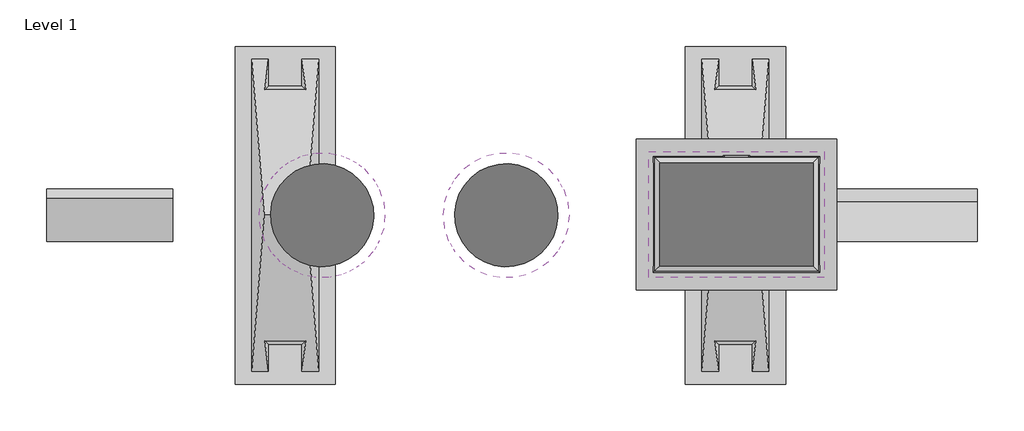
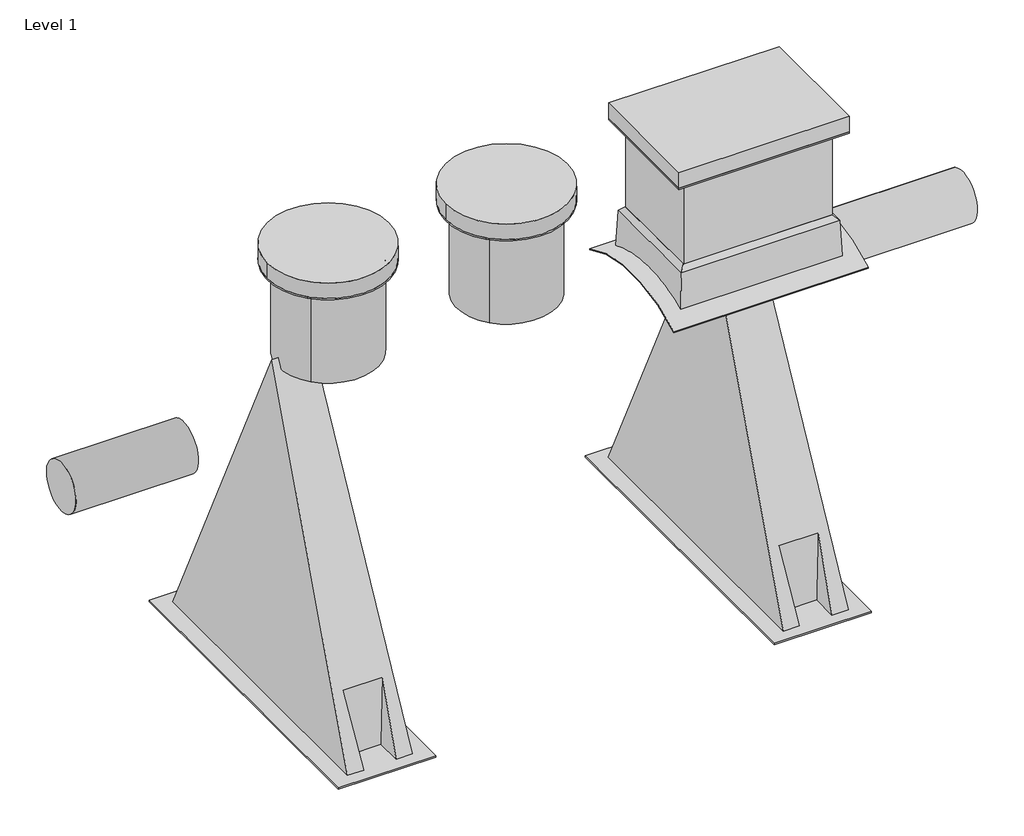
# One storey, incomplete: 11 proxies.
"""IFC4 building model written with IfcOpenShell, lengths in millimetres."""

import ifcopenshell
import ifcopenshell.guid

model = None  # the IFC model being written
_history = None  # IfcOwnerHistory: only IFC2X3 demands one
_inside = {}  # id of a spatial element -> (the spatial element, [elements in it])
_under = {}  # id of a project, library or spatial element -> (it, [spatial elements below it])
_declared = {}  # id of a project -> (the project, [libraries it declares])
_typed = {}  # id of a type object -> (the type object, [elements of that type])
_made_of = {}  # id of a material, layer set ... -> (it, [elements and type objects made of it])


def new_model(schema):
    """Start an empty IFC model of exactly this schema.

    Asked for "IFC4X3", IfcOpenShell would pick the latest addendum, in which some entities
    have other attributes; the version numbers below select the first issue.
    IFC2X3 requires an IfcOwnerHistory on every rooted entity: one is made here for all.
    """
    global model, _history
    if schema == "IFC4X3":
        model = ifcopenshell.file(schema_version=(4, 3, 0, 0))
    else:
        model = ifcopenshell.file(schema=schema)
    _inside.clear()
    _under.clear()
    _declared.clear()
    _typed.clear()
    _made_of.clear()
    _history = None
    if model.schema == "IFC2X3":
        org = make("IfcOrganization", Name="unknown")
        user = make(
            "IfcPersonAndOrganization",
            ThePerson=make("IfcPerson", FamilyName="unknown"),
            TheOrganization=org,
        )
        app = make(
            "IfcApplication",
            ApplicationDeveloper=org,
            Version="unknown",
            ApplicationFullName="unknown",
            ApplicationIdentifier="unknown",
        )
        _history = make(
            "IfcOwnerHistory",
            OwningUser=user,
            OwningApplication=app,
            ChangeAction="ADDED",
            CreationDate=0,
        )
    return model


def make(cls, **values):
    """One entity of the class cls with the attributes given. An attribute that is None is left unset."""
    return model.create_entity(
        cls, **{name: value for name, value in values.items() if value is not None}
    )


def rooted(cls, **values):
    """An entity with a GlobalId (a new one), such as an element, a storey or a relation."""
    return make(cls, GlobalId=ifcopenshell.guid.new(), OwnerHistory=_history, **values)


def si_unit(unit_type, name, prefix=None):
    """IfcSIUnit, for example si_unit("LENGTHUNIT", "METRE", prefix="MILLI")."""
    return make("IfcSIUnit", UnitType=unit_type, Prefix=prefix, Name=name)


def assignment(units):
    """IfcUnitAssignment: the units of a project."""
    return None if units is None else make("IfcUnitAssignment", Units=units)


def point(xyz):
    """IfcCartesianPoint."""
    return None if xyz is None else make("IfcCartesianPoint", Coordinates=xyz)


def direction(xyz):
    """IfcDirection."""
    return None if xyz is None else make("IfcDirection", DirectionRatios=xyz)


def frame(location, z_axis=None, x_axis=None):
    """IfcAxis2Placement3D, a coordinate frame: its origin and axes. An axis left out is left unset."""
    return make(
        "IfcAxis2Placement3D",
        Location=point(location),
        Axis=direction(z_axis),
        RefDirection=direction(x_axis),
    )


def frame_2d(location, x_axis=None):
    """IfcAxis2Placement2D, a coordinate frame in the plane: its origin and x axis."""
    return make(
        "IfcAxis2Placement2D", Location=point(location), RefDirection=direction(x_axis)
    )


def origin():
    """The frame at (0, 0, 0) with its axes left unset."""
    return frame((0.0, 0.0, 0.0))


def origin_2d():
    """The frame at (0, 0) in the plane with its x axis left unset."""
    return frame_2d((0.0, 0.0))


def place(relative_to, where):
    """IfcLocalPlacement: puts the frame where relative to a parent placement (None: the world)."""
    return make(
        "IfcLocalPlacement", PlacementRelTo=relative_to, RelativePlacement=where
    )


def context(
    kind, dimensions, precision=None, world=None, true_north=None, identifier=None
):
    """IfcGeometricRepresentationContext, for example the 3D "Model" context."""
    return make(
        "IfcGeometricRepresentationContext",
        ContextIdentifier=identifier,
        ContextType=kind,
        CoordinateSpaceDimension=dimensions,
        Precision=precision,
        WorldCoordinateSystem=world,
        TrueNorth=true_north,
    )


def project(units=None, contexts=None):
    """IfcProject with its units and contexts."""
    return rooted(
        "IfcProject",
        Name="project",
        RepresentationContexts=contexts,
        UnitsInContext=assignment(units),
    )


def spatial(cls, under=None, at=None, **own):
    """A site, building, storey or space (cls), placed at a placement, below another one or the project."""
    s = rooted(cls, ObjectPlacement=at, **own)
    if under is not None:
        _under.setdefault(under.id(), (under, []))[1].append(s)
    return s


def polyline(points):
    """IfcPolyline through the points."""
    return make("IfcPolyline", Points=[point(p) for p in points])


def circle_curve(where, radius):
    """IfcCircle in the frame where."""
    return make("IfcCircle", Position=where, Radius=radius)


def ellipse_curve(where, semi_axis1, semi_axis2):
    """IfcEllipse in the frame where."""
    return make(
        "IfcEllipse", Position=where, SemiAxis1=semi_axis1, SemiAxis2=semi_axis2
    )


def trimmed(basis, trim1, trim2, sense, master):
    """IfcTrimmedCurve: the piece of a basis curve between two trims."""
    return make(
        "IfcTrimmedCurve",
        BasisCurve=basis,
        Trim1=trim1,
        Trim2=trim2,
        SenseAgreement=sense,
        MasterRepresentation=master,
    )


def segment(curve, same_sense, transition):
    """IfcCompositeCurveSegment."""
    return make(
        "IfcCompositeCurveSegment",
        Transition=transition,
        SameSense=same_sense,
        ParentCurve=curve,
    )


def composite_curve(segments, self_intersect=None):
    """IfcCompositeCurve: segments joined end to end."""
    return make("IfcCompositeCurve", Segments=segments, SelfIntersect=self_intersect)


def outline(outer, holes=None, kind="AREA"):
    """IfcArbitraryClosedProfileDef: a profile drawn as a closed curve; with holes, ...WithVoids."""
    if holes is None:
        return make("IfcArbitraryClosedProfileDef", ProfileType=kind, OuterCurve=outer)
    return make(
        "IfcArbitraryProfileDefWithVoids",
        ProfileType=kind,
        OuterCurve=outer,
        InnerCurves=holes,
    )


def extrude(swept, where, along, depth):
    """IfcExtrudedAreaSolid: the profile swept, set in the frame where, extruded along a direction by depth."""
    return make(
        "IfcExtrudedAreaSolid",
        SweptArea=swept,
        Position=where,
        ExtrudedDirection=direction(along),
        Depth=depth,
    )


def faces_of(points, faces, orient=None, outer=None):
    """IfcFace entities. A face is a list of loops; a loop is a list of indices into points, from 0.

    orient and outer hold one flag for each loop. By default every Orientation is true, the
    first loop of a face is its IfcFaceOuterBound and the others are IfcFaceBound.
    """
    made = []
    for i, loops in enumerate(faces):
        bounds = []
        for j, loop in enumerate(loops):
            is_outer = j == 0 if outer is None else outer[i][j]
            bounds.append(
                make(
                    "IfcFaceOuterBound" if is_outer else "IfcFaceBound",
                    Bound=make("IfcPolyLoop", Polygon=[points[k] for k in loop]),
                    Orientation=True if orient is None else orient[i][j],
                )
            )
        made.append(make("IfcFace", Bounds=bounds))
    return made


def faceted_brep(points, faces, orient=None, outer=None, voids=None):
    """IfcFacetedBrep: a solid bounded by flat faces; with voids (closed shells), ...WithVoids."""
    shared = [point(p) for p in points]
    hull = make("IfcClosedShell", CfsFaces=faces_of(shared, faces, orient, outer))
    if voids is None:
        return make("IfcFacetedBrep", Outer=hull)
    return make(
        "IfcFacetedBrepWithVoids",
        Outer=hull,
        Voids=[
            make(cls, CfsFaces=faces_of(shared, fs, o, b)) for cls, fs, o, b in voids
        ],
    )


def shape(context_of_items, identifier, shape_type, items):
    """IfcShapeRepresentation: the items that make up one representation, for example the "Body"."""
    return make(
        "IfcShapeRepresentation",
        ContextOfItems=context_of_items,
        RepresentationIdentifier=identifier,
        RepresentationType=shape_type,
        Items=items,
    )


def source(mapping_origin, context_of_items, identifier, shape_type, items):
    """IfcRepresentationMap: a shape defined once, which mapped items show again and again."""
    return make(
        "IfcRepresentationMap",
        MappingOrigin=mapping_origin,
        MappedRepresentation=shape(context_of_items, identifier, shape_type, items),
    )


def transform(
    local_origin,
    x_axis=None,
    y_axis=None,
    z_axis=None,
    scale=None,
    scale2=None,
    scale3=None,
    uniform=True,
):
    """IfcCartesianTransformationOperator3D, or its non-uniform kind. x_axis, y_axis, z_axis: its Axis1, 2, 3."""
    if uniform:
        return make(
            "IfcCartesianTransformationOperator3D",
            Axis1=direction(x_axis),
            Axis2=direction(y_axis),
            LocalOrigin=point(local_origin),
            Scale=scale,
            Axis3=direction(z_axis),
        )
    return make(
        "IfcCartesianTransformationOperator3DnonUniform",
        Axis1=direction(x_axis),
        Axis2=direction(y_axis),
        LocalOrigin=point(local_origin),
        Scale=scale,
        Axis3=direction(z_axis),
        Scale2=scale2,
        Scale3=scale3,
    )


def mapped(mapping_source, mapping_target):
    """IfcMappedItem: shows the shape of a source again, moved by a transform."""
    return make(
        "IfcMappedItem", MappingSource=mapping_source, MappingTarget=mapping_target
    )


def made_of(thing, what):
    """Note that an element or type object is made of a material, layer set ...; save() writes the relation."""
    if what is not None:
        _made_of.setdefault(what.id(), (what, []))[1].append(thing)
    return thing


def element(
    cls,
    number,
    at=None,
    inside=None,
    cuts=None,
    type_object=None,
    material=None,
    context=None,
    identifier="Body",
    shape_type=None,
    held_by="IfcProductDefinitionShape",
    body=None,
    shapes=None,
    **own,
):
    """One element of the class cls, such as IfcWall. Its Tag is "e" and its number.

    at: its placement. inside: the storey or other place that contains it. cuts: it is an
    opening in that element (IfcRelVoidsElement). A single representation is given by context,
    identifier, shape_type and body (its items); several are given by shapes. held_by: the class
    of the entity that holds the representations. save() writes the other relations.
    """
    e = rooted(cls, Tag="e%d" % number, ObjectPlacement=at, **own)
    if body is not None:
        shapes = [shape(context, identifier, shape_type, body)]
    if shapes is not None:
        e.Representation = make(held_by, Representations=shapes)
    if inside is not None:
        _inside.setdefault(inside.id(), (inside, []))[1].append(e)
    if cuts is not None:
        rooted(
            "IfcRelVoidsElement", RelatingBuildingElement=cuts, RelatedOpeningElement=e
        )
    if type_object is not None:
        _typed.setdefault(type_object.id(), (type_object, []))[1].append(e)
    return made_of(e, material)


def aggregate(whole, parts):
    """IfcRelAggregates: a whole, such as a stair, and the parts it consists of."""
    return rooted("IfcRelAggregates", RelatingObject=whole, RelatedObjects=parts)


def save(model, path):
    """Write the relations noted so far, then the file.

    IfcRelAggregates (storeys below a building ...), IfcRelContainedInSpatialStructure (elements
    in a storey), IfcRelDefinesByType, IfcRelAssociatesMaterial and IfcRelDeclares: one each for
    every whole, place, type object, material and project.
    """
    for whole, parts in _under.values():
        aggregate(whole, parts)
    for where, things in _inside.values():
        rooted(
            "IfcRelContainedInSpatialStructure",
            RelatedElements=things,
            RelatingStructure=where,
        )
    for kind, things in _typed.values():
        rooted("IfcRelDefinesByType", RelatedObjects=things, RelatingType=kind)
    for what, things in _made_of.values():
        rooted("IfcRelAssociatesMaterial", RelatedObjects=things, RelatingMaterial=what)
    for by, libraries in _declared.values():
        rooted("IfcRelDeclares", RelatingContext=by, RelatedDefinitions=libraries)
    model.write(path)


def plane_surface(at):
    """IfcPlane: the flat surface through the origin of the frame at, square to its z axis."""
    return make("IfcPlane", Position=at)


def cylinder_surface(at, radius):
    """IfcCylindricalSurface: all points at the distance radius from the z axis of the frame at."""
    return make("IfcCylindricalSurface", Position=at, Radius=radius)


def revolved_surface(curve, axis_point, axis_direction):
    """IfcSurfaceOfRevolution: the curve turned about the line through axis_point along axis_direction."""
    return make(
        "IfcSurfaceOfRevolution",
        SweptCurve=make("IfcArbitraryOpenProfileDef", ProfileType="CURVE", Curve=curve),
        AxisPosition=make("IfcAxis1Placement", Location=point(axis_point), Axis=direction(axis_direction)),
    )


def advanced_brep(points, edges, surfaces, faces):
    """IfcAdvancedBrep: a solid bounded by faces that lie on surfaces and meet in shared edges.

    An edge is (start, end): straight between two places in points (the first is 0);
    or (start, end, curve); or (start, end, curve, False) where it runs against its curve.
    A face is (place in surfaces, loops), or (place, loops, False) where it looks against
    its surface's normal. A loop lists edges by number (the first is 1), with a minus sign
    where the edge is run from its end to its start. The first loop is the outer one.
    """
    corners = [point(p) for p in points]
    vertices = [make("IfcVertexPoint", VertexGeometry=c) for c in corners]
    made = []
    for start, end, *more in edges:
        made.append(
            make(
                "IfcEdgeCurve",
                EdgeStart=vertices[start],
                EdgeEnd=vertices[end],
                EdgeGeometry=more[0] if more else make("IfcPolyline", Points=[corners[start], corners[end]]),
                SameSense=more[1] if len(more) > 1 else True,
            )
        )
    hull = []
    for where, loops, *sense in faces:
        bounds = []
        for j, loop in enumerate(loops):
            ring = [make("IfcOrientedEdge", EdgeElement=made[abs(k) - 1], Orientation=k > 0) for k in loop]
            bounds.append(
                make(
                    "IfcFaceOuterBound" if j == 0 else "IfcFaceBound",
                    Bound=make("IfcEdgeLoop", EdgeList=ring),
                    Orientation=True,
                )
            )
        hull.append(make("IfcAdvancedFace", Bounds=bounds, FaceSurface=surfaces[where], SameSense=sense[0] if sense else True))
    return make("IfcAdvancedBrep", Outer=make("IfcClosedShell", CfsFaces=hull))


def generic_models_de51d8ae(model_context):
    return source(origin(), model_context, "Body", "AdvancedBrep", [
        advanced_brep(
        [(-375.0, 590.0, 0.0), (-375.0, 600.0, 0.0), (375.0, 600.0, 0.0), (375.0, 590.0, 0.0), (-308.0, 0.0, 0.0), (-308.0, 590.0, 0.0), (308.0, 590.0, 0.0), (308.0, 0.0, 0.0)],
        [
            (0, 1),
            (1, 2, circle_curve(frame((0.0, 600.0, 0.0), z_axis=(0.0, -1.0, 0.0), x_axis=(-1.0, 0.0, 0.0)), 375.0)),
            (2, 3),
            (3, 0, circle_curve(frame((0.0, 590.0, 0.0), z_axis=(0.0, 1.0, 0.0), x_axis=(-1.0, 0.0, 0.0)), 375.0)),
            (4, 5),
            (5, 6, circle_curve(frame((0.0, 590.0, 0.0), z_axis=(0.0, -1.0, 0.0), x_axis=(-1.0, 0.0, 0.0)), 308.0)),
            (6, 7),
            (7, 4, circle_curve(frame((0.0, 0.0, 0.0), z_axis=(0.0, 1.0, 0.0), x_axis=(-1.0, 0.0, 0.0)), 308.0)),
            (1, 2, circle_curve(frame((0.0, 600.0, 0.0), z_axis=(0.0, 1.0, 0.0), x_axis=(-1.0, 0.0, 0.0)), 375.0)),
            (7, 4, circle_curve(frame((0.0, 0.0, 0.0), z_axis=(0.0, -1.0, 0.0), x_axis=(-1.0, 0.0, 0.0)), 308.0)),
            (6, 5, circle_curve(frame((0.0, 590.0, 0.0), z_axis=(0.0, -1.0, 0.0), x_axis=(-1.0, 0.0, 0.0)), 308.0)),
            (3, 0, circle_curve(frame((0.0, 590.0, 0.0), z_axis=(0.0, -1.0, 0.0), x_axis=(-1.0, 0.0, 0.0)), 375.0)),
        ],
        [
            cylinder_surface(frame((0.0, 595.0, 0.0), z_axis=(0.0, 1.0, 0.0), x_axis=(-1.0, 0.0, 0.0)), 375.0),
            cylinder_surface(frame((0.0, 295.0, 0.0), z_axis=(0.0, 1.0, 0.0), x_axis=(-1.0, 0.0, 0.0)), 308.0),
            plane_surface(frame((-300.0, 600.0, 0.0), z_axis=(0.0, 1.0, 0.0), x_axis=(0.0, 0.0, 1.0))),
            plane_surface(frame((-308.0, 0.0, 0.0), z_axis=(0.0, -1.0, 0.0), x_axis=(0.0, 0.0, -1.0))),
            plane_surface(frame((-375.0, 590.0, 0.0), z_axis=(0.0, -1.0, 0.0), x_axis=(0.0, 0.0, -1.0))),
        ],
        [
            (0, [[1, 2, 3, 4]]),
            (1, [[5, 6, 7, 8]]),
            (2, [[9, -2]]),
            (3, [[10, -8]]),
            (1, [[-5, -10, -7, 11]]),
            (4, [[12, -4], [-11, -6]]),
            (0, [[-1, -12, -3, -9]]),
        ],
    ),
    ])


def generic_models_efd85da4(model_context):
    return source(origin(), model_context, "Body", "SweptSolid", [
        extrude(outline(polyline([(-375.0, 0.0), (-375.0, 100.0), (375.0, 100.0), (375.0, 0.0), (-375.0, 0.0)])), frame((0.0, 0.0, -525.0), z_axis=(0.0, 0.0, 1.0), x_axis=(1.0, 0.0, 0.0)), (0.0, 0.0, 1.0), 1050.0),
    ])


def generic_models_57929f39(model_context):
    return source(origin(), model_context, "Body", "Brep", [
        faceted_brep([(934.0, 0.0, 0.0), (0.0, 2118.0, 73.9621898), (0.0, 2118.0, 326.0378102), (934.0, 0.0, 400.0), (934.0, 0.0, 300.0), (750.3777149, 416.394004, 321.8222851), (750.3777149, 416.394004, 78.1777149), (934.0, 0.0, 100.0), (-934.0, 0.0, 400.0), (772.2, 0.0, 300.0), (772.2, 0.0, 100.0), (-934.0, 0.0, 0.0), (-934.0, 0.0, 100.0), (-750.3777149, 416.394004, 78.1777149), (-750.3777149, 416.394004, 321.8222851), (-934.0, 0.0, 300.0), (-772.2, 0.0, 100.0), (-772.2, 0.0, 300.0), (-1009.0, 0.0, 500.0), (1009.0, 0.0, 500.0), (1009.0, 0.0, -100.0), (-1009.0, 0.0, -100.0), (-1009.0, -10.0, 500.0), (-1009.0, -10.0, -100.0), (1009.0, -10.0, -100.0), (1009.0, -10.0, 500.0)], [[[0, 1, 2, 3, 4, 5, 6, 7]], [[3, 2, 8]], [[4, 9, 5]], [[9, 10, 6, 5]], [[10, 7, 6]], [[1, 11, 12, 13, 14, 15, 8, 2]], [[13, 16, 17, 14]], [[18, 19, 20, 21], [3, 8, 15, 17, 16, 12, 11, 0, 7, 10, 9, 4]], [[1, 0, 11]], [[14, 17, 15]], [[22, 23, 24, 25]], [[12, 16, 13]], [[19, 18, 22, 25]], [[20, 19, 25, 24]], [[21, 20, 24, 23]], [[18, 21, 23, 22]]]),
    ])


def generic_models_2a316d6d(model_context):
    return source(origin(), model_context, "Body", "SweptSolid", [
        extrude(outline(composite_curve([segment(trimmed(circle_curve(origin_2d(), 375.0), [point((0.0, 375.0))], [point((0.0, -375.0))], False, "CARTESIAN"), True, "CONTINUOUS"), segment(trimmed(circle_curve(origin_2d(), 375.0), [point((0.0, -375.0))], [point((0.0, 375.0))], False, "CARTESIAN"), True, "CONTINUOUS")], self_intersect=False)), frame((0.0, 0.0, 0.0), z_axis=(0.0, 1.0, 0.0), x_axis=(0.0, 0.0, 1.0)), (0.0, 0.0, 1.0), 100.0),
    ])


def generic_models_d9ee4f9d(model_context):
    return source(origin(), model_context, "Body", "Brep", [
        faceted_brep([(308.0, -600.0, -458.0), (308.0, -600.0, 458.0), (-308.0, -600.0, 458.0), (-308.0, -600.0, -458.0), (375.0, 0.0, -525.0), (-375.0, 0.0, -525.0), (-375.0, 0.0, 525.0), (375.0, 0.0, 525.0), (-308.0, -10.0, -458.0), (308.0, -10.0, -458.0), (-375.0, -10.0, -525.0), (375.0, -10.0, -525.0), (375.0, -10.0, 525.0), (-375.0, -10.0, 525.0), (-308.0, -10.0, 458.0), (308.0, -10.0, 458.0)], [[[0, 1, 2, 3]], [[4, 5, 6, 7]], [[0, 3, 8, 9]], [[10, 11, 12, 13], [9, 8, 14, 15]], [[3, 2, 14, 8]], [[2, 1, 15, 14]], [[0, 9, 15, 1]], [[5, 4, 11, 10]], [[6, 5, 10, 13]], [[7, 6, 13, 12]], [[4, 7, 12, 11]]]),
    ])


def generic_models_cbd79aaf(model_context):
    return source(origin(), model_context, "Body", "AdvancedBrep", [
        advanced_brep(
        [(296.4984069, 250.0, -446.4984069), (-296.4984069, 250.0, -446.4984069), (-296.4984069, 250.0, 446.4984069), (296.4984069, 250.0, 446.4984069), (298.0, 207.0, -448.0), (-298.0, 207.0, -448.0), (-298.0, 207.0, 448.0), (298.0, 207.0, 448.0), (-450.0, -99.8385062, 600.0), (450.0, -99.8385062, 600.0), (450.0, -99.8385062, -600.0), (-450.0, -99.8385062, -600.0), (-347.7562357, -50.8590545, -80.0415625), (-347.7562357, -50.8590545, -497.7562357), (347.7562357, -50.8590545, -497.7562357), (347.7562357, -50.8590545, 497.7562357), (-347.7562357, -50.8590545, 497.7562357), (-347.7562357, -50.8590545, 80.0415625), (-352.0, -52.5930793, 80.1802845), (-352.0, -52.5930793, -80.1802845), (-338.1192031, 178.0204704, -488.1192031), (338.1192031, 178.0204704, -488.1192031), (-342.353871, 77.447108, -69.7770695), (-342.353871, 77.447108, 69.7770695), (-338.1192031, 178.0204704, 488.1192031), (-309.1396735, 207.0, -459.1396735), (309.1396735, 207.0, -459.1396735), (338.1192031, 178.0204704, 488.1192031), (-309.1396735, 207.0, 459.1396735), (309.1396735, 207.0, 459.1396735), (-352.0, 77.447108, 69.7770695), (-450.0, -107.8600122, -600.0), (-450.0, -107.8600122, 600.0), (450.0, -107.8600122, -600.0), (450.0, -107.8600122, 600.0), (-352.0, 77.447108, -69.7770695)],
        [
            (0, 1),
            (1, 2),
            (2, 3),
            (3, 0),
            (0, 4),
            (4, 5),
            (5, 1),
            (5, 6),
            (6, 2),
            (3, 7),
            (7, 4),
            (6, 7),
            (8, 9, circle_curve(frame((0.0, -908.0, 600.0), z_axis=(0.0, 0.0, -1.0), x_axis=(0.48648648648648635, 0.8736881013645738, 0.0)), 925.0)),
            (9, 10),
            (10, 11, circle_curve(frame((0.0, -908.0, -600.0), z_axis=(0.0, 0.0, 1.0), x_axis=(0.48648648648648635, 0.8736881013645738, 0.0)), 925.0)),
            (11, 8),
            (12, 13),
            (13, 14, ellipse_curve(frame((0.0, -908.0, -533.8463808), z_axis=(0.0, 0.04206798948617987, -0.9991147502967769), x_axis=(0.0, 0.9991147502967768, 0.042067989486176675)), 925.8195815, 925.0)),
            (14, 15),
            (15, 16, ellipse_curve(frame((0.0, -908.0, 533.8463808), z_axis=(0.0, 0.04206798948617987, 0.9991147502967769), x_axis=(0.0, -0.9991147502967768, 0.042067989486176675)), 925.8195815, 925.0)),
            (16, 17),
            (17, 18, ellipse_curve(frame((0.0, -908.0, 148.6128381), z_axis=(0.0, 0.07974522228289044, 0.9968152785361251), x_axis=(0.0, -0.9968152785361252, 0.07974522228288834)), 927.9552791, 925.0)),
            (18, 19),
            (19, 12, ellipse_curve(frame((0.0, -908.0, -148.6128381), z_axis=(0.0, 0.0797452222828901, -0.9968152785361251), x_axis=(0.0, 0.9968152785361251, 0.07974522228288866)), 927.9552791, 925.0)),
            (13, 20),
            (20, 21),
            (21, 14),
            (12, 22),
            (22, 23, ellipse_curve(frame((-342.5889096, 71.8649424, 0.0), z_axis=(0.9991147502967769, -0.04206798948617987, 0.0), x_axis=(-0.042067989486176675, -0.9991147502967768, 0.0)), 70.0620224, 70.0)),
            (23, 17),
            (16, 24),
            (24, 20),
            (20, 25),
            (25, 26),
            (26, 21),
            (15, 27),
            (27, 24),
            (24, 28),
            (28, 25),
            (27, 21),
            (26, 29),
            (29, 27),
            (29, 28),
            (23, 30),
            (30, 18),
            (11, 31),
            (31, 32),
            (32, 8),
            (31, 33, circle_curve(frame((0.0, -908.0, -600.0), z_axis=(0.0, 0.0, -1.0), x_axis=(-0.49019607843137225, -0.8716121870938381, 0.0)), 918.0)),
            (33, 34),
            (34, 32, circle_curve(frame((0.0, -908.0, 600.0), z_axis=(0.0, 0.0, 1.0), x_axis=(-0.49019607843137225, -0.8716121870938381, 0.0)), 918.0)),
            (9, 34),
            (33, 10),
            (35, 19),
            (30, 35, circle_curve(frame((-352.0, 71.8649424, 0.0), z_axis=(-1.0, 0.0, 0.0), x_axis=(0.0, 0.07974522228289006, -0.996815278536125)), 70.0)),
            (22, 35),
        ],
        [
            plane_surface(frame((248.0, 250.0, -446.4984069), z_axis=(0.0, 1.0, 0.0), x_axis=(0.0, 0.0, 1.0))),
            plane_surface(frame((-248.0, 207.0, -448.0), z_axis=(0.0, 0.03489949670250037, -0.9993908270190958), x_axis=(0.0, 0.9993908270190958, 0.03489949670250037))),
            plane_surface(frame((-298.0, 207.0, 398.0), z_axis=(-0.9993908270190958, 0.03489949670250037, 0.0), x_axis=(0.03489949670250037, 0.9993908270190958, 0.0))),
            plane_surface(frame((298.0, 207.0, -398.0), z_axis=(0.9993908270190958, 0.03489949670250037, 0.0), x_axis=(-0.03489949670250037, 0.9993908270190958, 0.0))),
            plane_surface(frame((248.0, 207.0, 448.0), z_axis=(0.0, 0.03489949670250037, 0.9993908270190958), x_axis=(0.0, 0.9993908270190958, -0.03489949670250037))),
            cylinder_surface(frame((0.0, -908.0, 0.0), z_axis=(0.0, 0.0, 1.0), x_axis=(0.48648648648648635, 0.8736881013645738, 0.0)), 925.0),
            plane_surface(frame((-248.0, -299.4172684, -508.2218447), z_axis=(0.0, 0.04206798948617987, -0.9991147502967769), x_axis=(0.0, 0.9991147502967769, 0.04206798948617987))),
            plane_surface(frame((-358.2218447, -299.4172684, 398.0), z_axis=(-0.9991147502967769, 0.04206798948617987, 0.0), x_axis=(0.04206798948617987, 0.9991147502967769, 0.0))),
            plane_surface(frame((-248.0, 178.0204704, -488.1192031), z_axis=(0.0, 0.7071067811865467, -0.7071067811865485), x_axis=(0.0, 0.7071067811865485, 0.7071067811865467))),
            plane_surface(frame((248.0, -299.4172684, 508.2218447), z_axis=(0.0, 0.04206798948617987, 0.9991147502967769), x_axis=(0.0, 0.9991147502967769, -0.04206798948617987))),
            plane_surface(frame((-338.1192031, 178.0204704, 398.0), z_axis=(-0.7071067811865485, 0.7071067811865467, 0.0), x_axis=(0.7071067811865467, 0.7071067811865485, 0.0))),
            plane_surface(frame((338.1192031, 178.0204704, -398.0), z_axis=(0.7071067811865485, 0.7071067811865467, 0.0), x_axis=(-0.7071067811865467, 0.7071067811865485, 0.0))),
            plane_surface(frame((358.2218447, -299.4172684, -398.0), z_axis=(0.9991147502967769, 0.04206798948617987, 0.0), x_axis=(-0.04206798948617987, 0.9991147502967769, 0.0))),
            plane_surface(frame((248.0, 178.0204704, 488.1192031), z_axis=(0.0, 0.7071067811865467, 0.7071067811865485), x_axis=(0.0, 0.7071067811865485, -0.7071067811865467))),
            plane_surface(frame((248.0, 207.0, -459.1396735), z_axis=(0.0, 1.0, 0.0), x_axis=(0.0, 0.0, 1.0))),
            plane_surface(frame((0.0, -169.1602084, 89.5056548), z_axis=(0.0, 0.07974522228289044, 0.9968152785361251), x_axis=(0.0, 0.9968152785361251, -0.07974522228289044))),
            plane_surface(frame((-450.0, -99.8385062, 0.0), z_axis=(-1.0, 0.0, 0.0), x_axis=(0.0, -1.0, 0.0))),
            revolved_surface(polyline([(-449.9999999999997, -1708.1399877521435, 600.0), (-449.9999999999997, -1708.1399877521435, -600.0)]), (0.0, -908.0, 0.0), (0.0, 0.0, 1.0)),
            plane_surface(frame((450.0, -107.8600122, 0.0), z_axis=(1.0, 0.0, 0.0), x_axis=(0.0, 1.0, 0.0))),
            plane_surface(frame((-352.0, -13.647633, 0.0), z_axis=(-1.0, 0.0, 0.0), x_axis=(0.0, 0.0, -1.0))),
            cylinder_surface(frame((0.0, 71.8649424, 0.0), z_axis=(-0.9999999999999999, 0.0, 0.0), x_axis=(0.0, 0.07974522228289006, -0.996815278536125)), 70.0),
            plane_surface(frame((0.0, -45.4300061, 600.0), z_axis=(0.0, 0.0, 1.0), x_axis=(1.0, 0.0, 0.0))),
            plane_surface(frame((0.0, -45.4300061, -600.0), z_axis=(0.0, 0.0, -1.0), x_axis=(1.0, 0.0, 0.0))),
            plane_surface(frame((0.0, 77.447108, -69.7770695), z_axis=(0.0, 0.0797452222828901, -0.9968152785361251), x_axis=(0.0, -0.9968152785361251, -0.0797452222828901))),
        ],
        [
            (0, [[1, 2, 3, 4]]),
            (1, [[-1, 5, 6, 7]]),
            (2, [[-7, 8, 9, -2]]),
            (3, [[-4, 10, 11, -5]]),
            (4, [[-3, -9, 12, -10]]),
            (5, [[13, 14, 15, 16], [17, 18, 19, 20, 21, 22, 23, 24]]),
            (6, [[25, 26, 27, -18]]),
            (7, [[-17, 28, 29, 30, -21, 31, 32, -25]]),
            (8, [[-26, 33, 34, 35]]),
            (9, [[-20, 36, 37, -31]]),
            (10, [[-32, 38, 39, -33]]),
            (11, [[40, -35, 41, 42]]),
            (12, [[-27, -40, -36, -19]]),
            (13, [[-37, -42, 43, -38]]),
            (14, [[-34, -39, -43, -41], [-6, -11, -12, -8]]),
            (15, [[-30, 44, 45, -22]]),
            (16, [[-16, 46, 47, 48]]),
            (17, [[-47, 49, 50, 51]]),
            (18, [[-14, 52, -50, 53]]),
            (19, [[54, -23, -45, 55]]),
            (20, [[-55, -44, -29, 56]]),
            (21, [[-48, -51, -52, -13]]),
            (22, [[-46, -15, -53, -49]]),
            (23, [[-28, -24, -54, -56]]),
        ],
    ),
    ])


def iso_4065_pipe_dn315x2_5xs63_1365_7de0bab6(model_context):
    return source(origin(), model_context, "Body", "SweptSolid", [
        extrude(outline(composite_curve([segment(trimmed(circle_curve(origin_2d(), 157.5), [point((157.5, 0.0))], [point((-157.5, 0.0))], False, "CARTESIAN"), True, "CONTINUOUS"), segment(trimmed(circle_curve(origin_2d(), 157.5), [point((-157.5, 0.0))], [point((157.5, 0.0))], False, "CARTESIAN"), True, "CONTINUOUS")], self_intersect=False)), frame((0.0, 0.0, 0.0), z_axis=(1.0, 0.0, 0.0), x_axis=(0.0, 1.0, 0.0)), (0.0, 0.0, 1.0), 754.5),
    ])


def iso_4065_pipe_dn315x2_5xs63_1365_1_6db18670(model_context):
    return source(origin(), model_context, "Body", "AdvancedBrep", [
        advanced_brep(
        [(0.0, -157.5, 0.0), (938.9, -157.5, 0.0), (938.9, 157.5, 0.0), (0.0, 157.5, 0.0), (938.9, 79.1795725, -136.1500837)],
        [
            (0, 1),
            (1, 2, circle_curve(frame((938.9, 0.0, 0.0), z_axis=(-1.0, 0.0, 0.0), x_axis=(0.0, -1.0, 0.0)), 157.5)),
            (2, 3),
            (3, 0, circle_curve(frame((0.0, 0.0, 0.0), z_axis=(1.0, 0.0, 0.0), x_axis=(0.0, -1.0, 0.0)), 157.5)),
            (3, 0, circle_curve(frame((0.0, 0.0, 0.0), z_axis=(-1.0, 0.0, 0.0), x_axis=(0.0, -1.0, 0.0)), 157.5)),
            (1, 4, circle_curve(frame((938.9, 0.0, 0.0), z_axis=(1.0, 0.0, 0.0), x_axis=(0.0, -1.0, 0.0)), 157.5)),
            (4, 2, circle_curve(frame((938.9, 0.0, 0.0), z_axis=(1.0, 0.0, 0.0), x_axis=(0.0, -1.0, 0.0)), 157.5)),
        ],
        [
            cylinder_surface(frame((0.0, 0.0, 0.0), z_axis=(1.0, 0.0, 0.0), x_axis=(0.0, -1.0, 0.0)), 157.5),
            plane_surface(frame((0.0, 0.0, 0.0), z_axis=(-1.0, 0.0, 0.0), x_axis=(0.0, 0.0, 1.0))),
            plane_surface(frame((938.9, 0.0, 0.0), z_axis=(1.0, 0.0, 0.0), x_axis=(0.0, 0.5027274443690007, -0.8644449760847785))),
        ],
        [
            (0, [[1, 2, 3, 4]]),
            (1, [[5, -4]]),
            (2, [[6, 7, -2]]),
            (0, [[-1, -5, -3, -7, -6]]),
        ],
    ),
    ])


model = new_model("IFC4")

# Units and contexts
model_context = context("Model", 3, world=origin())
ifc_project = project(units=[si_unit("LENGTHUNIT", "METRE", prefix="MILLI")], contexts=[model_context])

# Site, building, storey
site = spatial("IfcSite", under=ifc_project)
building = spatial("IfcBuilding", under=site)
storey = spatial("IfcBuildingStorey", under=building, Name="Level 1", Elevation=0.0)

# Proxies
placement = place(None, origin())
generic_models_shape = generic_models_de51d8ae(model_context)
element("IfcBuildingElementProxy", 1, Name="SU.600mmDia.ManwayRiser.600-10", ObjectType="SU.600mmDia.ManwayRiser.600-10", at=placement, inside=storey, context=model_context, shape_type="MappedRepresentation", body=[
    mapped(generic_models_shape, transform((236.0354147, 0.0, 754.9492089), x_axis=(0.7350844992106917, 0.6779755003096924, 0.0), y_axis=(0.0, 0.0, 0.9999999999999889), z_axis=(0.6779755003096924, -0.7350844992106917, 0.0))),
])
element("IfcBuildingElementProxy", 2, Name="SU.600mmDia.ManwayRiser.600-10", ObjectType="SU.600mmDia.ManwayRiser.600-10", at=placement, inside=storey, context=model_context, shape_type="MappedRepresentation", body=[
    mapped(generic_models_shape, transform((1336.0354147, 0.0, 754.9492089), x_axis=(0.7350844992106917, 0.6779755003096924, 0.0), y_axis=(0.0, 0.0, 0.9999999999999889), z_axis=(0.6779755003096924, -0.7350844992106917, 0.0))),
])
generic_models_2_shape = generic_models_efd85da4(model_context)
element("IfcBuildingElementProxy", 3, Name="600x900mm Manway Cover-D", ObjectType="600x900mm Manway Cover-D", at=placement, inside=storey, context=model_context, shape_type="MappedRepresentation", body=[
    mapped(generic_models_2_shape, transform((2711.0000542, 4.2376728, 1354.9492089), x_axis=(0.0, 1.0, 0.0), y_axis=(0.0, 0.0, 1.0), z_axis=(1.0, 0.0, 0.0))),
])
generic_models_3_shape = generic_models_57929f39(model_context)
element("IfcBuildingElementProxy", 4, Name="SU.HS.FOOT.1850", ObjectType="SU.HS.FOOT.1850", at=placement, inside=storey, context=model_context, shape_type="MappedRepresentation", body=[
    mapped(generic_models_3_shape, transform((-183.9864806, 0.0, -1304.0507911), x_axis=(0.0, 1.0, 0.0), y_axis=(0.0, 0.0, 1.0), z_axis=(1.0, 0.0, 0.0))),
])
element("IfcBuildingElementProxy", 5, Name="SU.HS.FOOT.1850", ObjectType="SU.HS.FOOT.1850", at=placement, inside=storey, context=model_context, shape_type="MappedRepresentation", body=[
    mapped(generic_models_3_shape, transform((2503.986589, 0.0, -1304.0507911), x_axis=(0.0, 1.0, 0.0), y_axis=(0.0, 0.0, 1.0), z_axis=(1.0, 0.0, 0.0))),
])
generic_models_4_shape = generic_models_2a316d6d(model_context)
element("IfcBuildingElementProxy", 6, Name="600mmDia Manway Cover", ObjectType="600mmDia Manway Cover", at=placement, inside=storey, context=model_context, shape_type="MappedRepresentation", body=[
    mapped(generic_models_4_shape, transform((1336.0354147, 0.0, 1354.9492089), x_axis=(-1.0, 0.0, 0.0), y_axis=(0.0, 0.0, 1.0), z_axis=(0.0, 1.0, 0.0))),
])
element("IfcBuildingElementProxy", 7, Name="600mmDia Manway Cover", ObjectType="600mmDia Manway Cover", at=placement, inside=storey, context=model_context, shape_type="MappedRepresentation", body=[
    mapped(generic_models_4_shape, transform((236.0354147, 0.0, 1354.9492089), x_axis=(-1.0, 0.0, 0.0), y_axis=(0.0, 0.0, 1.0), z_axis=(0.0, 1.0, 0.0))),
])
generic_models_5_shape = generic_models_d9ee4f9d(model_context)
element("IfcBuildingElementProxy", 8, Name="600x900 - 600mm Manway Riser", ObjectType="600x900 - 600mm Manway Riser", at=placement, inside=storey, context=model_context, shape_type="MappedRepresentation", body=[
    mapped(generic_models_5_shape, transform((2711.0000542, 4.2376728, 1354.9492089), x_axis=(0.0, 1.0, 0.0), y_axis=(0.0, 0.0, 1.0), z_axis=(1.0, 0.0, 0.0))),
])
generic_models_6_shape = generic_models_cbd79aaf(model_context)
element("IfcBuildingElementProxy", 9, Name="SU.MRADAPTOR.1850.600Lx900W", ObjectType="SU.MRADAPTOR.1850.600Lx900W", at=placement, inside=storey, context=model_context, shape_type="MappedRepresentation", body=[
    mapped(generic_models_6_shape, transform((2711.0000542, 4.7542552, 587.9367622), x_axis=(0.0, -0.999986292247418, 0.005235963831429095), y_axis=(0.0, 0.005235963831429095, 0.999986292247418), z_axis=(-1.000000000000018, 0.0, 0.0))),
])
iso_4065_pipe_dn315x2_5xs63_1365_shape = iso_4065_pipe_dn315x2_5xs63_1365_7de0bab6(model_context)
element("IfcBuildingElementProxy", 10, Name="ISO 4065 Pipe DN315x2.5xS63 - 1365", ObjectType="ISO 4065 Pipe DN315x2.5xS63 - 1365", at=placement, inside=storey, context=model_context, shape_type="MappedRepresentation", body=[
    mapped(iso_4065_pipe_dn315x2_5xs63_1365_shape, transform((-654.9999458, 0.0, 442.9492089), x_axis=(-1.0000000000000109, 0.0, 0.0), y_axis=(0.0, -0.643467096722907, -0.7654737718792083), z_axis=(0.0, -0.7654737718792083, 0.643467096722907))),
])
iso_4065_pipe_dn315x2_5xs63_1365_1_shape = iso_4065_pipe_dn315x2_5xs63_1365_1_6db18670(model_context)
element("IfcBuildingElementProxy", 11, Name="ISO 4065 Pipe DN315x2.5xS63 - 1365_1", ObjectType="ISO 4065 Pipe DN315x2.5xS63 - 1365_1", at=placement, inside=storey, context=model_context, shape_type="MappedRepresentation", body=[
    mapped(iso_4065_pipe_dn315x2_5xs63_1365_1_shape, transform((3211.0556098, 0.0, 392.9492089), x_axis=(0.9999999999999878, 0.0, 0.0), y_axis=(0.0, 0.5027274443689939, 0.8644449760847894), z_axis=(0.0, -0.8644449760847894, 0.5027274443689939))),
])

save(model, "model.ifc")
